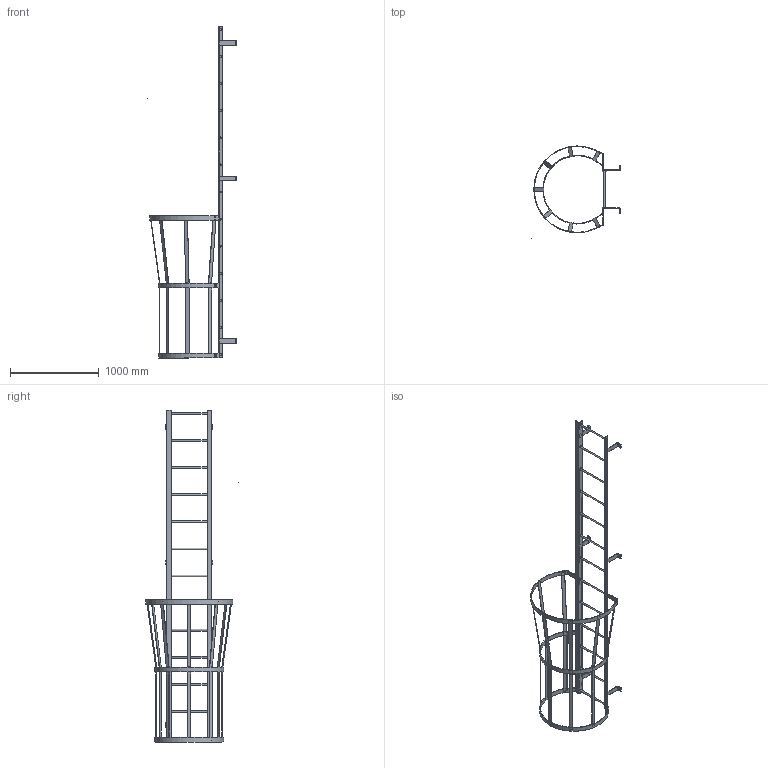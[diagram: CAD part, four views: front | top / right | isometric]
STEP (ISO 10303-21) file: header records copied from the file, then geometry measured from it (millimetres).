
FILE_DESCRIPTION(/* description */ (''),/* implementation_level */ '2;1');
FILE_NAME(/* name */ 'P:\MIKEL & KAREN\3570242 F13SC SIMPLIFIED PART.stp',/* time_stamp */ '2018-07-02T15:54:24-04:00',/* author */ ('stephanie'),/* organization */ (''),/* preprocessor_version */ 'ST-DEVELOPER v16.1',/* originating_system */ 'Autodesk Inventor 2016',/* authorisation */ '');
FILE_SCHEMA (('AUTOMOTIVE_DESIGN { 1 0 10303 214 3 1 1 }'));
Length unit declared in the file: centimetre
Products named in the file (1): 3570242 F13SC SIMPLIFIED PART
Bounding box: 996.21 x 1039.18 x 3733.8 mm (x, y, z)
Volume: 10649034.6 mm3; surface area: 3612234.9 mm2
Topology: 15 solids, 15 shells, 329 faces, 969 edges, 638 vertices
Faces by surface type: plane 218, cylinder 111
Full cylindrical faces by diameter (mm): 0.254 x1, 14.287 x6, 19.05 x13, 22.225 x26
Entity records: 11125 total; most frequent: DIRECTION 1845, ORIENTED_EDGE 1838, CARTESIAN_POINT 1827, EDGE_CURVE 891, AXIS2_PLACEMENT_3D 624, VERTEX_POINT 606, LINE 597, VECTOR 597
